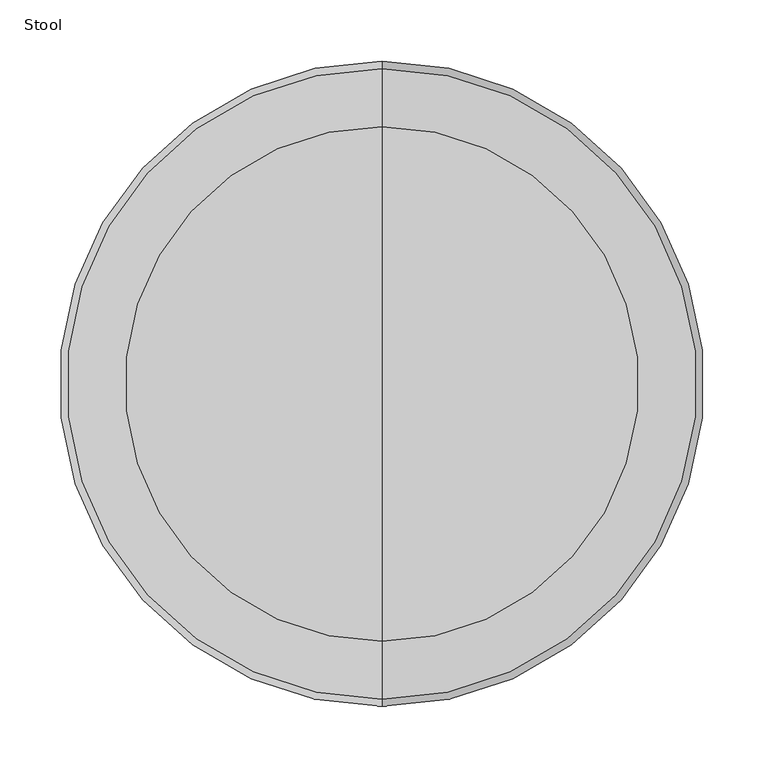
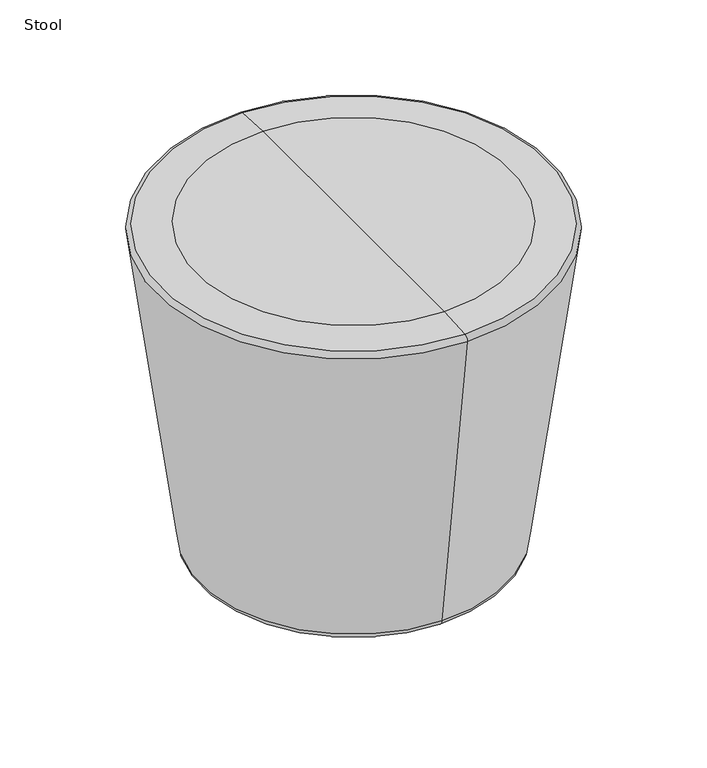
"""IFC4 building model written with IfcOpenShell, lengths in millimetres: furniture geometry, SmithSystem_AM_Seating_Education_Flowform_TaperedCylinderStool : Stool."""

from ifc_helpers import new_model, si_unit, point, frame, frame_2d, origin, origin_with_axes, place, context, project, spatial, polyline, circle_curve, ellipse_curve, trimmed, segment, composite_curve, outline, extrude, source, transform, mapped, element, save
from ifc_brep_helpers import plane_surface, revolved_surface, advanced_brep


def stool_93acecdb(model_context):
    return source(origin(), model_context, "Body", "SolidModel", [
        extrude(outline(composite_curve([segment(trimmed(circle_curve(frame_2d((-140.8334951, 73.4908453)), 17.78), [point((-158.6134951, 73.4908453))], [point((-123.0534951, 73.4908453))], False, "CARTESIAN"), True, "CONTINUOUS"), segment(trimmed(circle_curve(frame_2d((-140.8334951, 73.4908453)), 17.78), [point((-123.0534951, 73.4908453))], [point((-158.6134951, 73.4908453))], False, "CARTESIAN"), True, "CONTINUOUS")], self_intersect=False)), origin_with_axes(), (0.0, 0.0, 1.0), 9.5250204),
        extrude(outline(composite_curve([segment(trimmed(circle_curve(frame_2d((-111.5581177, -111.3466132)), 17.78), [point((-129.3381177, -111.3466132))], [point((-93.7781177, -111.3466132))], False, "CARTESIAN"), True, "CONTINUOUS"), segment(trimmed(circle_curve(frame_2d((-111.5581177, -111.3466132)), 17.78), [point((-93.7781177, -111.3466132))], [point((-129.3381177, -111.3466132))], False, "CARTESIAN"), True, "CONTINUOUS")], self_intersect=False)), origin_with_axes(), (0.0, 0.0, 1.0), 9.5250204),
        extrude(outline(composite_curve([segment(trimmed(circle_curve(frame_2d((158.2518974, 25.8805458)), 17.78), [point((176.0318974, 25.8805458))], [point((140.4718974, 25.8805458))], False, "CARTESIAN"), True, "CONTINUOUS"), segment(trimmed(circle_curve(frame_2d((158.2518974, 25.8805458)), 17.78), [point((140.4718974, 25.8805458))], [point((176.0318974, 25.8805458))], False, "CARTESIAN"), True, "CONTINUOUS")], self_intersect=False)), origin_with_axes(), (0.0, 0.0, 1.0), 9.5250204),
        extrude(outline(composite_curve([segment(trimmed(circle_curve(frame_2d((72.4634815, -139.990208)), 17.78), [point((90.2434815, -139.990208))], [point((54.6834815, -139.990208))], False, "CARTESIAN"), True, "CONTINUOUS"), segment(trimmed(circle_curve(frame_2d((72.4634815, -139.990208)), 17.78), [point((54.6834815, -139.990208))], [point((90.2434815, -139.990208))], False, "CARTESIAN"), True, "CONTINUOUS")], self_intersect=False)), origin_with_axes(), (0.0, 0.0, 1.0), 9.5250204),
        extrude(outline(composite_curve([segment(trimmed(circle_curve(frame_2d((24.3375716, 157.4652918)), 17.78), [point((42.1175716, 157.4652918))], [point((6.5575716, 157.4652918))], False, "CARTESIAN"), True, "CONTINUOUS"), segment(trimmed(circle_curve(frame_2d((24.3375716, 157.4652918)), 17.78), [point((6.5575716, 157.4652918))], [point((42.1175716, 157.4652918))], False, "CARTESIAN"), True, "CONTINUOUS")], self_intersect=False)), origin_with_axes(), (0.0, 0.0, 1.0), 9.5250204),
        advanced_brep(
        [(0.0, -193.617691, 10.0000675), (0.0, 193.617691, 10.0000675), (0.0, 0.0, 10.0000675), (0.0, -203.6835569, 18.7802333), (0.0, 203.6835569, 18.7802333), (0.0, -262.3966588, 447.0912723), (0.0, 262.3966588, 447.0912723), (0.0, -209.4451868, 457.2), (0.0, 209.4451868, 457.2), (0.0, 256.4972571, 454.2915722), (0.0, -256.4972571, 454.2915722), (0.0, 0.0, 457.2)],
        [
            (0, 1, circle_curve(frame((0.0, 0.0, 10.0000675), z_axis=(0.0, 0.0, -1.0), x_axis=(0.0, 1.0, 0.0)), 193.617691)),
            (1, 2),
            (2, 0),
            (1, 0, circle_curve(frame((0.0, 0.0, 10.0000675), z_axis=(0.0, 0.0, -1.0), x_axis=(0.0, 1.0, 0.0)), 193.617691)),
            (3, 4, circle_curve(frame((0.0, 0.0, 18.7802333), z_axis=(0.0, 0.0, -1.0), x_axis=(0.0, 1.0, 0.0)), 203.6835569)),
            (4, 1, circle_curve(frame((0.0, 193.617691, 20.1600675), z_axis=(-1.0, 0.0, 0.0), x_axis=(0.0, -1.0, 0.0)), 10.16)),
            (0, 3, circle_curve(frame((0.0, -193.617691, 20.1600675), z_axis=(-1.0, 0.0, 0.0), x_axis=(0.0, 1.0, 0.0)), 10.16)),
            (4, 3, circle_curve(frame((0.0, 0.0, 18.7802333), z_axis=(0.0, 0.0, -1.0), x_axis=(0.0, 1.0, 0.0)), 203.6835569)),
            (5, 6, circle_curve(frame((0.0, 0.0, 447.0912723), z_axis=(0.0, 0.0, -1.0), x_axis=(0.0, 1.0, 0.0)), 262.3966588)),
            (6, 4),
            (3, 5),
            (6, 5, circle_curve(frame((0.0, 0.0, 447.0912723), z_axis=(0.0, 0.0, -1.0), x_axis=(0.0, 1.0, 0.0)), 262.3966588)),
            (7, 8, circle_curve(frame((0.0, 0.0, 457.2), z_axis=(0.0, 0.0, -1.0), x_axis=(0.0, 1.0, 0.0)), 209.4451868)),
            (8, 9),
            (9, 10, circle_curve(frame((0.0, 0.0, 454.2915722), z_axis=(0.0, 0.0, 1.0), x_axis=(0.0, 1.0, 0.0)), 256.4972571)),
            (10, 7),
            (8, 7, circle_curve(frame((0.0, 0.0, 457.2), z_axis=(0.0, 0.0, -1.0), x_axis=(0.0, 1.0, 0.0)), 209.4451868)),
            (10, 9, circle_curve(frame((0.0, 0.0, 454.2915722), z_axis=(0.0, 0.0, 1.0), x_axis=(0.0, 1.0, 0.0)), 256.4972571)),
            (11, 8),
            (7, 11),
            (9, 6, circle_curve(frame((0.0, 256.1054926, 447.9536687), z_axis=(-1.0, 0.0, 0.0), x_axis=(0.0, -1.0, 0.0)), 6.35)),
            (5, 10, circle_curve(frame((0.0, -256.1054926, 447.9536687), z_axis=(-1.0, 0.0, 0.0), x_axis=(0.0, 1.0, 0.0)), 6.35)),
        ],
        [
            plane_surface(frame((0.0, 0.0, 10.0000675), z_axis=(0.0, 0.0, -1.0), x_axis=(0.0, 1.0, 0.0))),
            revolved_surface(trimmed(ellipse_curve(frame((0.0, 193.617691, 20.1600675), z_axis=(1.0, 0.0, 0.0), x_axis=(0.0, -1.0, 0.0)), 10.16, 10.16), [point((0.0, 193.617691, 10.0000675))], [point((0.0, 203.6835569, 18.7802333))], True, "CARTESIAN"), (0.0, 0.0, 558.8), (0.0, 0.0, 1.0)),
            revolved_surface(polyline([(0.0, 203.6835569, 18.7802333), (0.0, 262.3966588, 447.0912723)]), (0.0, 0.0, 558.8), (0.0, 0.0, 1.0)),
            revolved_surface(polyline([(0.0, 256.4972571, 454.2915722), (0.0, 209.4451868, 457.2)]), (0.0, 0.0, 558.8), (0.0, 0.0, 1.0)),
            plane_surface(frame((0.0, 0.0, 457.2), z_axis=(0.0, 0.0, 1.0), x_axis=(0.0, 1.0, 0.0))),
            revolved_surface(trimmed(ellipse_curve(frame((0.0, 256.1054926, 447.9536687), z_axis=(1.0, 0.0, 0.0), x_axis=(0.0, -1.0, 0.0)), 6.35, 6.35), [point((0.0, 262.3966588, 447.0912723))], [point((0.0, 256.4972571, 454.2915722))], True, "CARTESIAN"), (0.0, 0.0, 558.8), (0.0, 0.0, 1.0)),
        ],
        [
            (0, [[1, 2, 3]]),
            (0, [[4, -3, -2]]),
            (1, [[5, 6, -1, 7]]),
            (1, [[8, -7, -4, -6]]),
            (2, [[9, 10, -5, 11]]),
            (2, [[12, -11, -8, -10]]),
            (3, [[13, 14, 15, 16]]),
            (3, [[17, -16, 18, -14]]),
            (4, [[19, -13, 20]]),
            (4, [[-20, -17, -19]]),
            (5, [[-15, 21, -9, 22]]),
            (5, [[-18, -22, -12, -21]]),
        ],
    ),
    ])


if __name__ == "__main__":
    model = new_model("IFC4")
    model_context = context("Model", 3, world=origin())
    ifc_project = project(units=[si_unit("LENGTHUNIT", "METRE", prefix="MILLI")], contexts=[model_context])
    site = spatial("IfcSite", under=ifc_project)
    building = spatial("IfcBuilding", under=site)
    placement = place(None, origin())
    stool_shape = stool_93acecdb(model_context)
    element("IfcFurniture", 1, ObjectType="SmithSystem_AM_Seating_Education_Flowform_TaperedCylinderStool : Stool", at=placement, inside=building, context=model_context, shape_type="MappedRepresentation", body=[
        mapped(stool_shape, transform((0.0, 0.0, 0.0), x_axis=(1.0, 0.0, 0.0), y_axis=(0.0, 1.0, 0.0), z_axis=(0.0, 0.0, 1.0))),
    ])
    save(model, "model.ifc")
